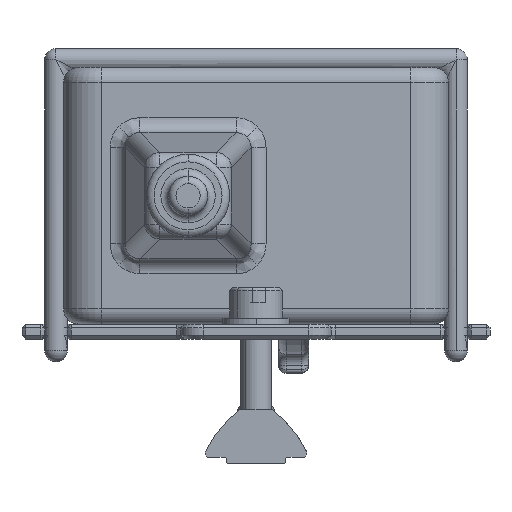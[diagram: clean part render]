
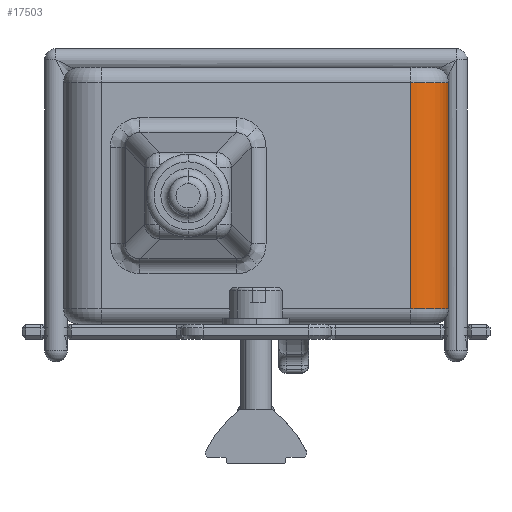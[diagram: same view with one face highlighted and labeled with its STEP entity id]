
A CAD part, left-side view. The second image highlights one B-rep face of the part: STEP entity #17503.
In plain terms, the highlighted cylindrical face has radius 5 mm (diameter 10 mm), a partial arc.
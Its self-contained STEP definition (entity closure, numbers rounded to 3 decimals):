
#14 = CARTESIAN_POINT ( 'NONE',  ( -50., -25.5, -15. ) ) ;
#98 = LINE ( 'NONE', #13701, #5401 ) ;
#380 = ORIENTED_EDGE ( 'NONE', *, *, #11636, .T. ) ;
#1069 = CARTESIAN_POINT ( 'NONE',  ( -50., -25.5, 15. ) ) ;
#1116 = CARTESIAN_POINT ( 'NONE',  ( -55., -20.5, -15. ) ) ;
#1345 = EDGE_CURVE ( 'NONE', #3951, #9347, #15414, .T. ) ;
#1515 = DIRECTION ( 'NONE',  ( 0., 0., -1. ) ) ;
#2233 = ORIENTED_EDGE ( 'NONE', *, *, #6578, .F. ) ;
#2713 = CARTESIAN_POINT ( 'NONE',  ( -50., -20.5, 15. ) ) ;
#3951 = VERTEX_POINT ( 'NONE', #1116 ) ;
#4215 = DIRECTION ( 'NONE',  ( -1., 0., 0. ) ) ;
#4311 = CARTESIAN_POINT ( 'NONE',  ( -50., -20.5, 17. ) ) ;
#4579 = DIRECTION ( 'NONE',  ( 0., 0., 1. ) ) ;
#5401 = VECTOR ( 'NONE', #1515, 1000. ) ;
#5851 = EDGE_LOOP ( 'NONE', ( #12466, #13489, #2233, #380 ) ) ;
#6116 = EDGE_CURVE ( 'NONE', #3951, #6186, #8788, .T. ) ;
#6186 = VERTEX_POINT ( 'NONE', #14 ) ;
#6578 = EDGE_CURVE ( 'NONE', #11012, #6186, #98, .T. ) ;
#6813 = AXIS2_PLACEMENT_3D ( 'NONE', #8128, #13460, #16189 ) ;
#8128 = CARTESIAN_POINT ( 'NONE',  ( -50., -20.5, -15. ) ) ;
#8217 = DIRECTION ( 'NONE',  ( 0., 0., -1. ) ) ;
#8373 = CIRCLE ( 'NONE', #10647, 5. ) ;
#8788 = CIRCLE ( 'NONE', #6813, 5. ) ;
#9347 = VERTEX_POINT ( 'NONE', #10790 ) ;
#9987 = AXIS2_PLACEMENT_3D ( 'NONE', #4311, #10902, #4215 ) ;
#10647 = AXIS2_PLACEMENT_3D ( 'NONE', #2713, #8217, #10720 ) ;
#10720 = DIRECTION ( 'NONE',  ( 1., 0., 0. ) ) ;
#10790 = CARTESIAN_POINT ( 'NONE',  ( -55., -20.5, 15. ) ) ;
#10902 = DIRECTION ( 'NONE',  ( 0., 0., -1. ) ) ;
#11012 = VERTEX_POINT ( 'NONE', #1069 ) ;
#11636 = EDGE_CURVE ( 'NONE', #11012, #9347, #8373, .T. ) ;
#12466 = ORIENTED_EDGE ( 'NONE', *, *, #1345, .F. ) ;
#13460 = DIRECTION ( 'NONE',  ( 0., 0., 1. ) ) ;
#13489 = ORIENTED_EDGE ( 'NONE', *, *, #6116, .T. ) ;
#13701 = CARTESIAN_POINT ( 'NONE',  ( -50., -25.5, 17. ) ) ;
#15414 = LINE ( 'NONE', #16736, #17338 ) ;
#15950 = FACE_OUTER_BOUND ( 'NONE', #5851, .T. ) ;
#16189 = DIRECTION ( 'NONE',  ( 1., 0., 0. ) ) ;
#16470 = CYLINDRICAL_SURFACE ( 'NONE', #9987, 5. ) ;
#16736 = CARTESIAN_POINT ( 'NONE',  ( -55., -20.5, 17. ) ) ;
#17338 = VECTOR ( 'NONE', #4579, 1000. ) ;
#17503 = ADVANCED_FACE ( 'NONE', ( #15950 ), #16470, .T. ) ;
